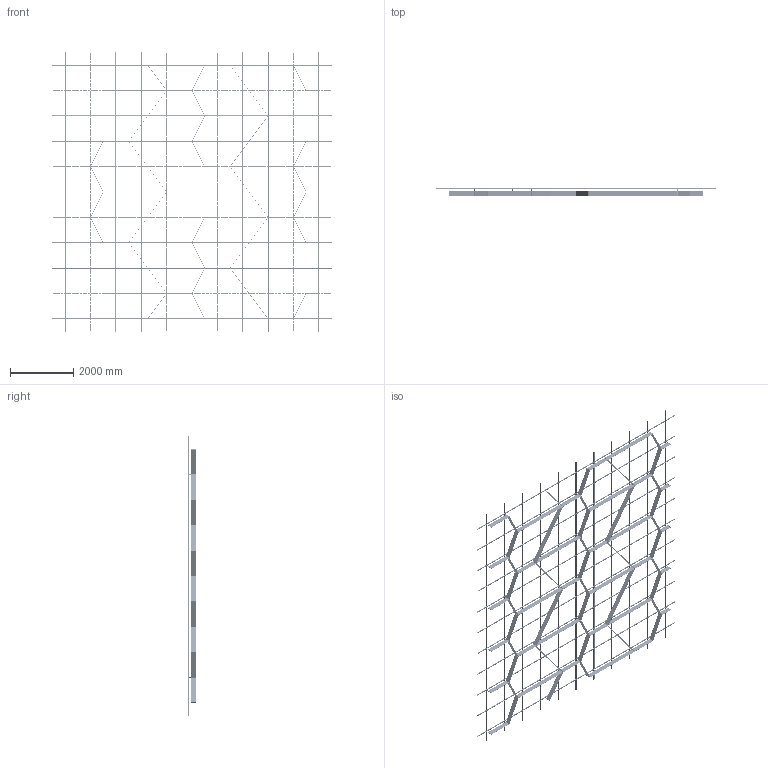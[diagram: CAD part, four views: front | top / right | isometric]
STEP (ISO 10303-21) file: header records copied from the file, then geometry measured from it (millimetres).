
FILE_DESCRIPTION (( 'STEP AP214' ), '1' );
FILE_NAME ('OPT_Var12.STEP', '2024-04-26T06:47:55', ( '' ), ( '' ), 'SwSTEP 2.0', 'SolidWorks 2020', '' );
FILE_SCHEMA (( 'AUTOMOTIVE_DESIGN' ));
Length unit declared in the file: millimetre
Products named in the file (5): Varp12; Ñèñòåìà â çîíå 8000õ8000; SS.SEMA.2400 - Ñèìà-ïðîôèëü — îáðåçàí 1600; SS.SEMA.2400 - Ñèìà-ïðîôèëü; OPT_Var12
Assembly tree (90 placements, depth 3):
  OPT_Var12
    Ñèñòåìà â çîíå 8000õ8000
      SS.SEMA.2400 - Ñèìà-ïðîôèëü  x66
      SS.SEMA.2400 - Ñèìà-ïðîôèëü — îáðåçàí 1600  x22
    Varp12
Bounding box: 8800 x 253 x 8800 mm (x, y, z)
Volume: 111434567.7 mm3; surface area: 55408110 mm2
Topology: 390 solids, 390 shells, 18152 faces, 50708 edges, 33336 vertices
Faces by surface type: cylinder 12314, plane 5838
Entity records: 55855 total; most frequent: CARTESIAN_POINT 16030, ORIENTED_EDGE 8264, DIRECTION 5658, EDGE_CURVE 4132, VERTEX_POINT 2744, AXIS2_PLACEMENT_3D 2580, B_SPLINE_CURVE_WITH_KNOTS 2232, EDGE_LOOP 2158
